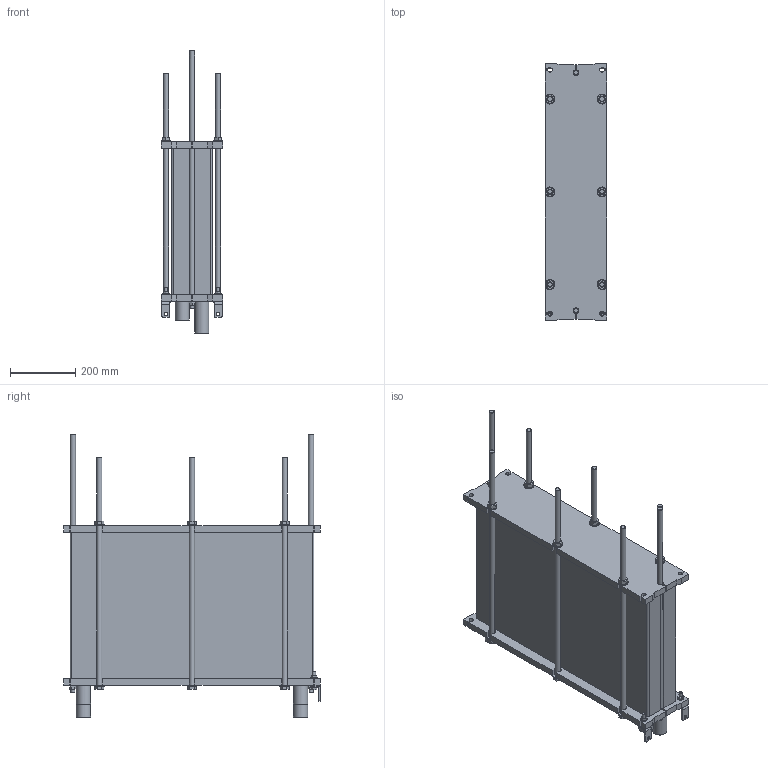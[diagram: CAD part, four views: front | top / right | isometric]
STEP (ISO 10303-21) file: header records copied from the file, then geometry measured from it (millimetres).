
FILE_DESCRIPTION((''),'2;1');
FILE_NAME('C:\temp\TL3_FG_LC750_01_Rev0.stp','2009-09-07T16:02:44',('CNSHFLU'),(''),'Autodesk Inventor 2008','Autodesk Inventor 2008','');
FILE_SCHEMA(('AUTOMOTIVE_DESIGN { 1 2 10303 214 0 1 1 1 }'));
Length unit declared in the file: millimetre
Products named in the file (1): TL3
Bounding box: 190 x 790 x 869 mm (x, y, z)
Volume: 47759823.1 mm3; surface area: 1829272.1 mm2
Topology: 1 solids, 1 shells, 793 faces, 2161 edges, 1424 vertices
Faces by surface type: plane 559, cylinder 220, cone 14
Full cylindrical faces by diameter (mm): 2.646 x4, 10 x4, 11 x4, 12 x2, 16 x14, 20 x4, 24 x2, 30 x16, 40 x4, 44 x4
Entity records: 24479 total; most frequent: CARTESIAN_POINT 4243, DIRECTION 4127, ORIENTED_EDGE 4114, EDGE_CURVE 2057, VECTOR 1575, LINE 1575, VERTEX_POINT 1392, AXIS2_PLACEMENT_3D 1276
